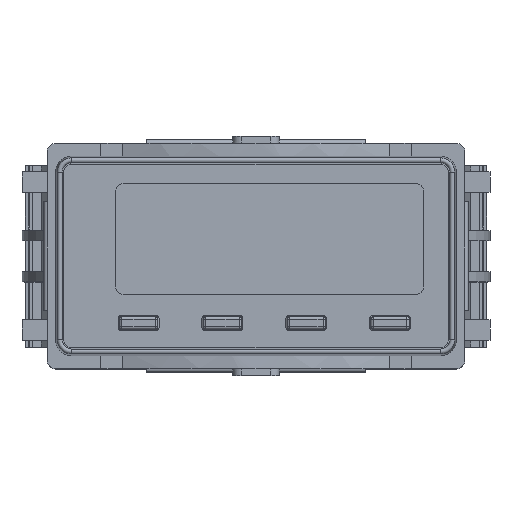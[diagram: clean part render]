
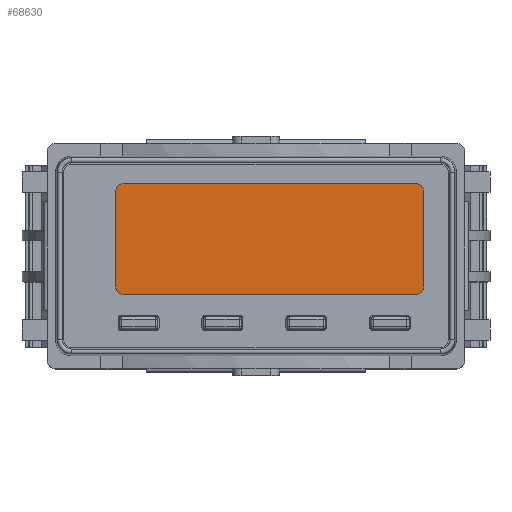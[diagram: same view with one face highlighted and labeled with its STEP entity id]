
A CAD part, top view. The second image highlights one B-rep face of the part: STEP entity #68630.
In plain terms, the highlighted planar face has unit normal (0, 0, 1).
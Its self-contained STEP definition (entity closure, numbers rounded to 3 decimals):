
#66441=CARTESIAN_POINT('',(-15.84,-3.69,3.85));
#66442=DIRECTION('',(0.,0.,1.));
#66443=DIRECTION('',(-1.,0.,0.));
#66444=AXIS2_PLACEMENT_3D('',#66441,#66442,#66443);
#66449=DIRECTION('',(0.,-1.,0.));
#66450=VECTOR('',#66449,11.38);
#66451=CARTESIAN_POINT('',(-16.74,7.69,3.85));
#66452=LINE('',#66451,#66450);
#66456=CARTESIAN_POINT('',(-15.84,7.69,3.85));
#66457=DIRECTION('',(0.,0.,1.));
#66458=DIRECTION('',(0.,1.,0.));
#66459=AXIS2_PLACEMENT_3D('',#66456,#66457,#66458);
#66464=DIRECTION('',(-1.,0.,0.));
#66465=VECTOR('',#66464,34.94);
#66466=CARTESIAN_POINT('',(19.1,8.59,3.85));
#66467=LINE('',#66466,#66465);
#66471=CARTESIAN_POINT('',(19.1,7.69,3.85));
#66472=DIRECTION('',(0.,0.,1.));
#66473=DIRECTION('',(1.,0.,0.));
#66474=AXIS2_PLACEMENT_3D('',#66471,#66472,#66473);
#66479=DIRECTION('',(0.,1.,0.));
#66480=VECTOR('',#66479,11.38);
#66481=CARTESIAN_POINT('',(20.,-3.69,3.85));
#66482=LINE('',#66481,#66480);
#66486=CARTESIAN_POINT('',(19.1,-3.69,3.85));
#66487=DIRECTION('',(0.,0.,1.));
#66488=DIRECTION('',(0.,-1.,0.));
#66489=AXIS2_PLACEMENT_3D('',#66486,#66487,#66488);
#66494=DIRECTION('',(1.,0.,0.));
#66495=VECTOR('',#66494,34.94);
#66496=CARTESIAN_POINT('',(-15.84,-4.59,3.85));
#66497=LINE('',#66496,#66495);
#66853=CARTESIAN_POINT('',(-16.74,-3.69,3.85));
#66854=CARTESIAN_POINT('',(-15.84,-4.59,3.85));
#66855=VERTEX_POINT('',#66853);
#66856=VERTEX_POINT('',#66854);
#66857=CARTESIAN_POINT('',(19.1,-4.59,3.85));
#66858=VERTEX_POINT('',#66857);
#66859=CARTESIAN_POINT('',(20.,-3.69,3.85));
#66860=VERTEX_POINT('',#66859);
#66861=CARTESIAN_POINT('',(20.,7.69,3.85));
#66862=VERTEX_POINT('',#66861);
#66863=CARTESIAN_POINT('',(19.1,8.59,3.85));
#66864=VERTEX_POINT('',#66863);
#66865=CARTESIAN_POINT('',(-15.84,8.59,3.85));
#66866=VERTEX_POINT('',#66865);
#66867=CARTESIAN_POINT('',(-16.74,7.69,3.85));
#66868=VERTEX_POINT('',#66867);
#68615=CARTESIAN_POINT('',(0.,0.,3.85));
#68616=DIRECTION('',(0.,0.,1.));
#68617=DIRECTION('',(1.,0.,0.));
#68618=AXIS2_PLACEMENT_3D('',#68615,#68616,#68617);
#68619=PLANE('',#68618);
#68620=ORIENTED_EDGE('',*,*,#68511,.F.);
#68621=ORIENTED_EDGE('',*,*,#68526,.F.);
#68622=ORIENTED_EDGE('',*,*,#68540,.F.);
#68623=ORIENTED_EDGE('',*,*,#68554,.F.);
#68624=ORIENTED_EDGE('',*,*,#68568,.F.);
#68625=ORIENTED_EDGE('',*,*,#68582,.F.);
#68626=ORIENTED_EDGE('',*,*,#68596,.F.);
#68627=ORIENTED_EDGE('',*,*,#68609,.F.);
#68628=EDGE_LOOP('',(#68620,#68621,#68622,#68623,#68624,#68625,#68626,#68627));
#68629=FACE_OUTER_BOUND('',#68628,.F.);
#68630=ADVANCED_FACE('',(#68629),#68619,.T.);
#66445=CIRCLE('',#66444,0.9);
#66460=CIRCLE('',#66459,0.9);
#66475=CIRCLE('',#66474,0.9);
#66490=CIRCLE('',#66489,0.9);
#68511=EDGE_CURVE('',#66855,#66856,#66445,.T.);
#68526=EDGE_CURVE('',#66868,#66855,#66452,.T.);
#68540=EDGE_CURVE('',#66866,#66868,#66460,.T.);
#68554=EDGE_CURVE('',#66864,#66866,#66467,.T.);
#68568=EDGE_CURVE('',#66862,#66864,#66475,.T.);
#68582=EDGE_CURVE('',#66860,#66862,#66482,.T.);
#68596=EDGE_CURVE('',#66858,#66860,#66490,.T.);
#68609=EDGE_CURVE('',#66856,#66858,#66497,.T.);
